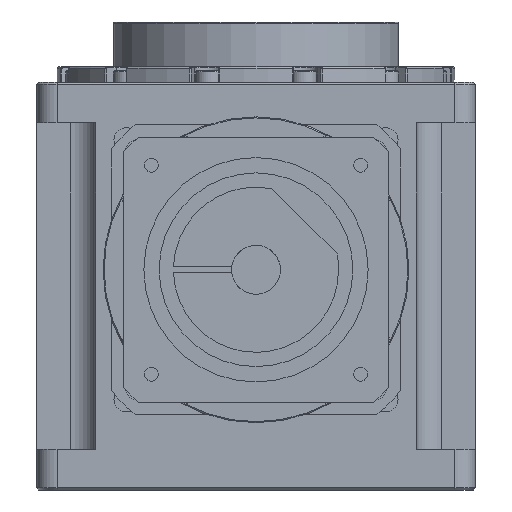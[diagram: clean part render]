
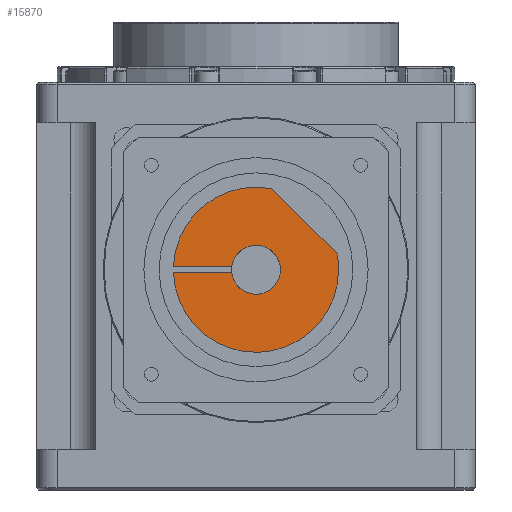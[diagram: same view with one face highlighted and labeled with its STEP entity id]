
A CAD part, front view. The second image highlights one B-rep face of the part: STEP entity #15870.
In plain terms, the highlighted planar face has unit normal (0, -1, 0) as drawn and (0, 0, -1) by its records, which use the part's own axes.
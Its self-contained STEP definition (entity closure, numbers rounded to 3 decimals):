
#1992 = LINE ( 'NONE', #14845, #15103 ) ;
#2217 = ORIENTED_EDGE ( 'NONE', *, *, #13714, .F. ) ;
#3003 = CARTESIAN_POINT ( 'NONE',  ( 39.752, -7.748, -166. ) ) ;
#3026 = CARTESIAN_POINT ( 'NONE',  ( -8.592, 1.5, -166. ) ) ;
#3260 = DIRECTION ( 'NONE',  ( 0., 0., -1. ) ) ;
#3422 = ORIENTED_EDGE ( 'NONE', *, *, #22054, .F. ) ;
#3654 = VERTEX_POINT ( 'NONE', #3003 ) ;
#3764 = CARTESIAN_POINT ( 'NONE',  ( 23.75, -23.75, -166. ) ) ;
#3869 = AXIS2_PLACEMENT_3D ( 'NONE', #14163, #22518, #20060 ) ;
#5348 = CIRCLE ( 'NONE', #21516, 40.5 ) ;
#6955 = ORIENTED_EDGE ( 'NONE', *, *, #21156, .T. ) ;
#7509 = DIRECTION ( 'NONE',  ( -1., 0., 0. ) ) ;
#7667 = CARTESIAN_POINT ( 'NONE',  ( 7.748, -39.752, -166. ) ) ;
#7878 = DIRECTION ( 'NONE',  ( 0.707, 0.707, 0. ) ) ;
#8131 = AXIS2_PLACEMENT_3D ( 'NONE', #13052, #19214, #25798 ) ;
#8935 = VERTEX_POINT ( 'NONE', #21513 ) ;
#10813 = VECTOR ( 'NONE', #7878, 1000. ) ;
#10861 = DIRECTION ( 'NONE',  ( -1., 0., 0. ) ) ;
#11237 = LINE ( 'NONE', #3026, #22616 ) ;
#11587 = AXIS2_PLACEMENT_3D ( 'NONE', #22545, #3260, #11618 ) ;
#11618 = DIRECTION ( 'NONE',  ( -1., 0., 0. ) ) ;
#11646 = EDGE_CURVE ( 'NONE', #24951, #3654, #20431, .T. ) ;
#12141 = AXIS2_PLACEMENT_3D ( 'NONE', #15497, #13196, #10861 ) ;
#12426 = EDGE_CURVE ( 'NONE', #19840, #17563, #23991, .T. ) ;
#13052 = CARTESIAN_POINT ( 'NONE',  ( 0., 0., -166. ) ) ;
#13196 = DIRECTION ( 'NONE',  ( 0., 0., -1. ) ) ;
#13211 = CARTESIAN_POINT ( 'NONE',  ( -11.906, -1.5, -166. ) ) ;
#13714 = EDGE_CURVE ( 'NONE', #19129, #3654, #16077, .T. ) ;
#14163 = CARTESIAN_POINT ( 'NONE',  ( 0., 0., -166. ) ) ;
#14305 = CARTESIAN_POINT ( 'NONE',  ( 40.5, 0., -166. ) ) ;
#14419 = VERTEX_POINT ( 'NONE', #16013 ) ;
#14845 = CARTESIAN_POINT ( 'NONE',  ( -8.592, -1.5, -166. ) ) ;
#14955 = ORIENTED_EDGE ( 'NONE', *, *, #12426, .F. ) ;
#15103 = VECTOR ( 'NONE', #16625, 1000. ) ;
#15294 = AXIS2_PLACEMENT_3D ( 'NONE', #24472, #18444, #7509 ) ;
#15468 = DIRECTION ( 'NONE',  ( 1., 0., 0. ) ) ;
#15497 = CARTESIAN_POINT ( 'NONE',  ( 0., 0., -166. ) ) ;
#15781 = ORIENTED_EDGE ( 'NONE', *, *, #21540, .F. ) ;
#15870 = ADVANCED_FACE ( 'NONE', ( #26272 ), #16109, .T. ) ;
#16013 = CARTESIAN_POINT ( 'NONE',  ( -11.906, 1.5, -166. ) ) ;
#16077 = LINE ( 'NONE', #3764, #10813 ) ;
#16109 = PLANE ( 'NONE',  #15294 ) ;
#16625 = DIRECTION ( 'NONE',  ( -1., 0., 0. ) ) ;
#16930 = DIRECTION ( 'NONE',  ( -1., 0., 0. ) ) ;
#17563 = VERTEX_POINT ( 'NONE', #13211 ) ;
#17896 = VERTEX_POINT ( 'NONE', #25883 ) ;
#18104 = EDGE_CURVE ( 'NONE', #17896, #24951, #25596, .T. ) ;
#18444 = DIRECTION ( 'NONE',  ( 0., 0., -1. ) ) ;
#18859 = DIRECTION ( 'NONE',  ( 0., 0., -1. ) ) ;
#19129 = VERTEX_POINT ( 'NONE', #7667 ) ;
#19214 = DIRECTION ( 'NONE',  ( 0., 0., -1. ) ) ;
#19564 = CARTESIAN_POINT ( 'NONE',  ( 12., 0., -166. ) ) ;
#19840 = VERTEX_POINT ( 'NONE', #19564 ) ;
#19932 = CIRCLE ( 'NONE', #8131, 12. ) ;
#20060 = DIRECTION ( 'NONE',  ( -1., 0., 0. ) ) ;
#20431 = CIRCLE ( 'NONE', #12141, 40.5 ) ;
#21156 = EDGE_CURVE ( 'NONE', #19129, #8935, #5348, .T. ) ;
#21513 = CARTESIAN_POINT ( 'NONE',  ( -40.472, -1.5, -166. ) ) ;
#21516 = AXIS2_PLACEMENT_3D ( 'NONE', #25165, #18859, #16930 ) ;
#21540 = EDGE_CURVE ( 'NONE', #17563, #8935, #1992, .T. ) ;
#22054 = EDGE_CURVE ( 'NONE', #14419, #19840, #19932, .T. ) ;
#22518 = DIRECTION ( 'NONE',  ( 0., 0., -1. ) ) ;
#22545 = CARTESIAN_POINT ( 'NONE',  ( 0., 0., -166. ) ) ;
#22616 = VECTOR ( 'NONE', #15468, 1000. ) ;
#23637 = ORIENTED_EDGE ( 'NONE', *, *, #11646, .T. ) ;
#23991 = CIRCLE ( 'NONE', #3869, 12. ) ;
#24472 = CARTESIAN_POINT ( 'NONE',  ( 0., 0., -166. ) ) ;
#24510 = EDGE_CURVE ( 'NONE', #17896, #14419, #11237, .T. ) ;
#24951 = VERTEX_POINT ( 'NONE', #14305 ) ;
#25165 = CARTESIAN_POINT ( 'NONE',  ( 0., 0., -166. ) ) ;
#25596 = CIRCLE ( 'NONE', #11587, 40.5 ) ;
#25798 = DIRECTION ( 'NONE',  ( -1., 0., 0. ) ) ;
#25883 = CARTESIAN_POINT ( 'NONE',  ( -40.472, 1.5, -166. ) ) ;
#25901 = EDGE_LOOP ( 'NONE', ( #2217, #6955, #15781, #14955, #3422, #26381, #26805, #23637 ) ) ;
#26272 = FACE_OUTER_BOUND ( 'NONE', #25901, .T. ) ;
#26381 = ORIENTED_EDGE ( 'NONE', *, *, #24510, .F. ) ;
#26805 = ORIENTED_EDGE ( 'NONE', *, *, #18104, .T. ) ;
